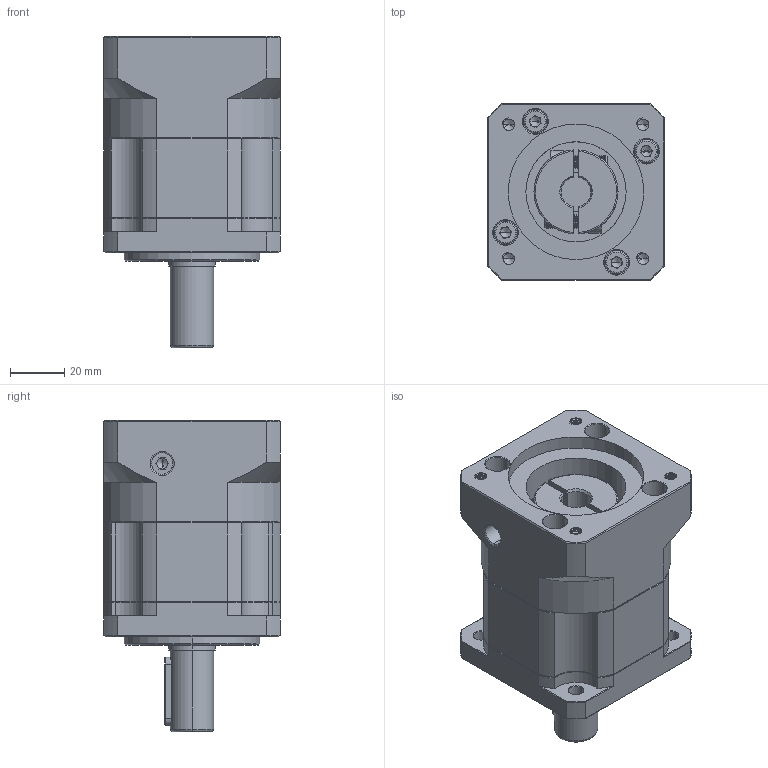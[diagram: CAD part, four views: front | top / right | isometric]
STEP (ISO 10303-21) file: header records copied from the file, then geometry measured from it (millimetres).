
FILE_DESCRIPTION (( 'STEP AP214' ), '1' );
FILE_NAME ('ZB060-D16-L1-P2-11-50-70-M5.step', '2023-08-16T07:04:15', ( '' ), ( '' ), 'SwSTEP 2.0', 'SolidWorks 2016', '' );
FILE_SCHEMA (( 'AUTOMOTIVE_DESIGN' ));
Length unit declared in the file: millimetre
Products named in the file (1): ZB060-D16-L1-P2-11-50-70-M5
Bounding box: 65 x 65 x 115 mm (x, y, z)
Volume: 270568.8 mm3; surface area: 55045.7 mm2
Topology: 6 solids, 6 shells, 2164 faces, 5824 edges, 3748 vertices
Faces by surface type: plane 1059, bspline 397, cylinder 393, cone 281, torus 34
Entity records: 117648 total; most frequent: CARTESIAN_POINT 42709, ORIENTED_EDGE 11588, DIRECTION 9128, EDGE_CURVE 5794, VERTEX_POINT 3748, VECTOR 3658, LINE 3658, AXIS2_PLACEMENT_3D 2735
